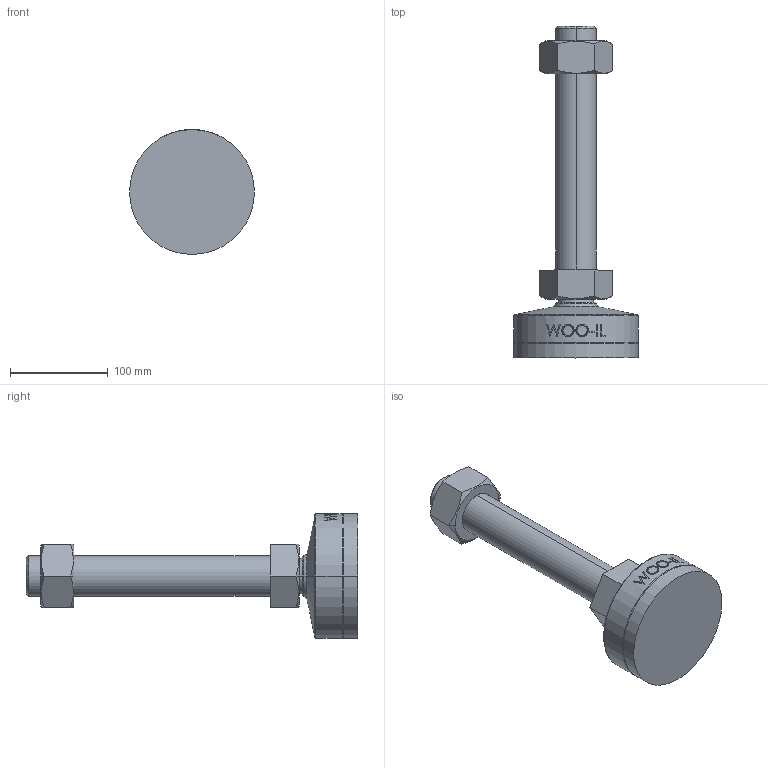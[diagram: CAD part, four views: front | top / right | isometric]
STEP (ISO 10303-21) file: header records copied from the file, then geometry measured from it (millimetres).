
FILE_DESCRIPTION (( 'STEP AP214' ), '1' );
FILE_NAME ('MFNR128-M42-250.step', '2021-02-22T09:05:19', ( '' ), ( '' ), 'SwSTEP 2.0', 'SolidWorks 2019', '' );
FILE_SCHEMA (( 'AUTOMOTIVE_DESIGN' ));
Length unit declared in the file: millimetre
Products named in the file (2): MFNR128-M42-250
Bounding box: 128 x 340 x 128 mm (x, y, z)
Volume: 1160529.6 mm3; surface area: 105655.4 mm2
Topology: 2 solids, 2 shells, 103 faces, 239 edges, 152 vertices
Faces by surface type: plane 47, cone 18, cylinder 16, bspline 16, torus 4, sphere 2
Entity records: 4657 total; most frequent: CARTESIAN_POINT 2378, ORIENTED_EDGE 478, DIRECTION 423, EDGE_CURVE 239, AXIS2_PLACEMENT_3D 161, VERTEX_POINT 152, EDGE_LOOP 117, ADVANCED_FACE 103
